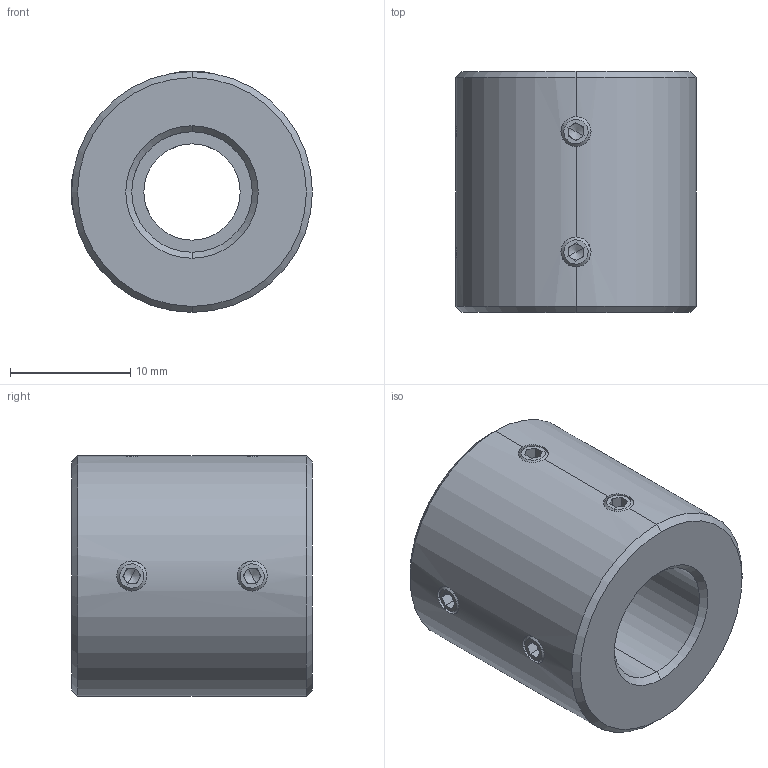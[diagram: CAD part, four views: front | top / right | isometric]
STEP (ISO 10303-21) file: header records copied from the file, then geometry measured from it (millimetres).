
FILE_DESCRIPTION (( 'STEP AP214' ), '1' );
FILE_NAME ('LL-D-D20L20-8-10.STEP', '2022-07-23T06:38:24', ( '' ), ( '' ), 'SwSTEP 2.0', 'SolidWorks 2022', '' );
FILE_SCHEMA (( 'AUTOMOTIVE_DESIGN' ));
Length unit declared in the file: millimetre
Products named in the file (1): LL-D-D20L20-8-10
Bounding box: 20 x 20 x 20 mm (x, y, z)
Volume: 4930.5 mm3; surface area: 2398.9 mm2
Topology: 1 solids, 1 shells, 113 faces, 286 edges, 176 vertices
Faces by surface type: plane 59, cone 32, cylinder 22
Entity records: 3638 total; most frequent: CARTESIAN_POINT 888, DIRECTION 582, ORIENTED_EDGE 556, EDGE_CURVE 278, AXIS2_PLACEMENT_3D 214, VERTEX_POINT 176, VECTOR 154, LINE 154
